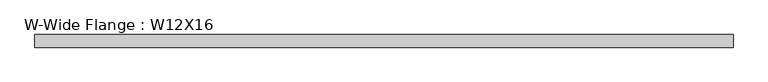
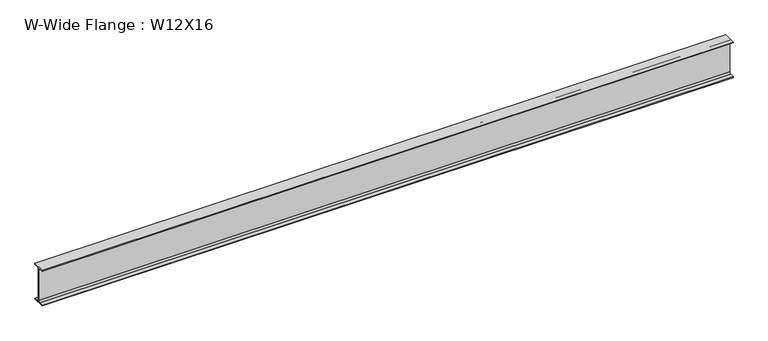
"""IFC4 building model written with IfcOpenShell, lengths in millimetres: beam geometry, W-Wide Flange : W12X16."""

from ifc_helpers import new_model, si_unit, point, frame, frame_2d, origin, place, context, project, spatial, polyline, circle_curve, trimmed, segment, composite_curve, outline, extrude, source, transform, mapped, element, save


def w_wide_flange_w12x16_3f34ee89(model_context):
    return source(origin(), model_context, "Body", "SweptSolid", [
        extrude(outline(composite_curve([segment(polyline([(50.673, -145.669), (50.673, -152.4), (-50.673, -152.4), (-50.673, -145.669), (-16.7005, -145.669)]), True, "CONTINUOUS"), segment(trimmed(circle_curve(frame_2d((-16.7005, -131.7625)), 13.9065), [point((-16.7005, -145.669))], [point((-2.794, -131.7625))], True, "CARTESIAN"), True, "CONTINUOUS"), segment(polyline([(-2.794, -131.7625), (-2.794, 131.7625)]), True, "CONTINUOUS"), segment(trimmed(circle_curve(frame_2d((-16.7005, 131.7625)), 13.9065), [point((-2.794, 131.7625))], [point((-16.7005, 145.669))], True, "CARTESIAN"), True, "CONTINUOUS"), segment(polyline([(-16.7005, 145.669), (-50.673, 145.669), (-50.673, 152.4), (50.673, 152.4), (50.673, 145.669), (16.7005, 145.669)]), True, "CONTINUOUS"), segment(trimmed(circle_curve(frame_2d((16.7005, 131.7625)), 13.9065), [point((16.7005, 145.669))], [point((2.794, 131.7625))], True, "CARTESIAN"), True, "CONTINUOUS"), segment(polyline([(2.794, 131.7625), (2.794, -131.7625)]), True, "CONTINUOUS"), segment(trimmed(circle_curve(frame_2d((16.7005, -131.7625)), 13.9065), [point((2.794, -131.7625))], [point((16.7005, -145.669))], True, "CARTESIAN"), True, "CONTINUOUS"), segment(polyline([(16.7005, -145.669), (50.673, -145.669)]), True, "CONTINUOUS")], self_intersect=False)), frame((-2796.7470724, 0.0, 0.0), z_axis=(1.0, 0.0, 0.0), x_axis=(0.0, 1.0, 0.0)), (0.0, 0.0, 1.0), 5600.7),
    ])


if __name__ == "__main__":
    model = new_model("IFC4")
    model_context = context("Model", 3, world=origin())
    ifc_project = project(units=[si_unit("LENGTHUNIT", "METRE", prefix="MILLI")], contexts=[model_context])
    site = spatial("IfcSite", under=ifc_project)
    building = spatial("IfcBuilding", under=site)
    placement = place(None, origin())
    w_wide_flange_w12x16_shape = w_wide_flange_w12x16_3f34ee89(model_context)
    element("IfcBeam", 1, ObjectType="W-Wide Flange : W12X16", at=placement, inside=building, context=model_context, shape_type="MappedRepresentation", body=[
        mapped(w_wide_flange_w12x16_shape, transform((0.0, 0.0, 0.0), x_axis=(1.0, 0.0, 0.0), y_axis=(0.0, 1.0, 0.0), z_axis=(0.0, 0.0, 1.0))),
    ])
    save(model, "model.ifc")
